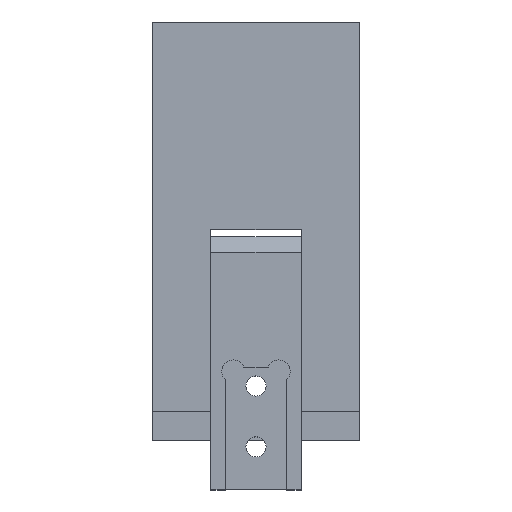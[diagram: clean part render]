
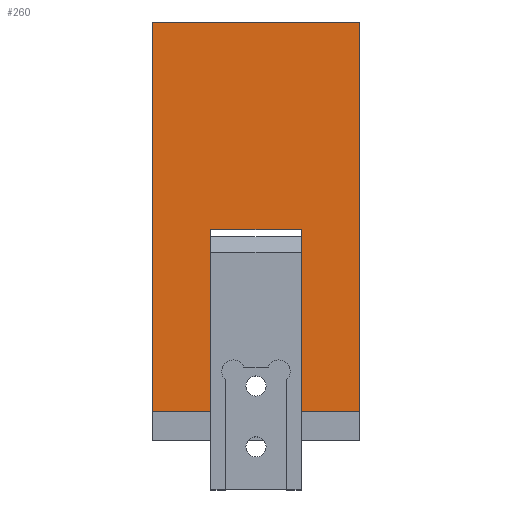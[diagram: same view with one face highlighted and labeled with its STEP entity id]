
A CAD part, top view. The second image highlights one B-rep face of the part: STEP entity #260.
In plain terms, the highlighted planar face has unit normal (0, 0, 1).
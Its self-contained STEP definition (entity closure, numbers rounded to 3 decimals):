
#172 = ORIENTED_EDGE ( 'NONE', *, *, #471, .F. ) ;
#260 = ADVANCED_FACE ( 'NONE', ( #3676 ), #5539, .F. ) ;
#373 = EDGE_CURVE ( 'NONE', #3381, #1973, #2630, .T. ) ;
#471 = EDGE_CURVE ( 'NONE', #3478, #1303, #3552, .T. ) ;
#563 = EDGE_CURVE ( 'NONE', #3946, #1760, #3898, .T. ) ;
#721 = DIRECTION ( 'NONE',  ( 0., 0., -1. ) ) ;
#741 = DIRECTION ( 'NONE',  ( -1., 0., 0. ) ) ;
#774 = CARTESIAN_POINT ( 'NONE',  ( -9.436, -40.64, 27.94 ) ) ;
#867 = CARTESIAN_POINT ( 'NONE',  ( -9.436, -40.64, 27.94 ) ) ;
#906 = EDGE_CURVE ( 'NONE', #3943, #3381, #990, .T. ) ;
#990 = LINE ( 'NONE', #3695, #5508 ) ;
#1094 = CARTESIAN_POINT ( 'NONE',  ( 21.59, -40.64, 27.94 ) ) ;
#1303 = VERTEX_POINT ( 'NONE', #5459 ) ;
#1325 = LINE ( 'NONE', #2492, #3682 ) ;
#1480 = VECTOR ( 'NONE', #4371, 1000. ) ;
#1513 = VECTOR ( 'NONE', #3715, 1000. ) ;
#1538 = VECTOR ( 'NONE', #5295, 1000. ) ;
#1698 = ORIENTED_EDGE ( 'NONE', *, *, #906, .F. ) ;
#1760 = VERTEX_POINT ( 'NONE', #1094 ) ;
#1828 = ORIENTED_EDGE ( 'NONE', *, *, #4137, .T. ) ;
#1871 = VERTEX_POINT ( 'NONE', #2474 ) ;
#1902 = EDGE_CURVE ( 'NONE', #3946, #3943, #1325, .T. ) ;
#1923 = DIRECTION ( 'NONE',  ( -1., 0., 0. ) ) ;
#1973 = VERTEX_POINT ( 'NONE', #774 ) ;
#1984 = DIRECTION ( 'NONE',  ( 0., -1., 0. ) ) ;
#2021 = DIRECTION ( 'NONE',  ( 0., -1., 0. ) ) ;
#2164 = ORIENTED_EDGE ( 'NONE', *, *, #3698, .F. ) ;
#2230 = CARTESIAN_POINT ( 'NONE',  ( 9.436, -40.64, 27.94 ) ) ;
#2235 = AXIS2_PLACEMENT_3D ( 'NONE', #4706, #721, #741 ) ;
#2474 = CARTESIAN_POINT ( 'NONE',  ( -21.59, -40.64, 27.94 ) ) ;
#2492 = CARTESIAN_POINT ( 'NONE',  ( 9.436, -40.64, 27.94 ) ) ;
#2630 = LINE ( 'NONE', #867, #1480 ) ;
#2661 = EDGE_CURVE ( 'NONE', #3478, #1871, #2822, .T. ) ;
#2758 = CARTESIAN_POINT ( 'NONE',  ( -21.59, 40.64, 27.94 ) ) ;
#2822 = LINE ( 'NONE', #5075, #4898 ) ;
#3265 = CARTESIAN_POINT ( 'NONE',  ( -21.59, -40.64, 27.94 ) ) ;
#3271 = VECTOR ( 'NONE', #5245, 1000. ) ;
#3381 = VERTEX_POINT ( 'NONE', #4911 ) ;
#3478 = VERTEX_POINT ( 'NONE', #2758 ) ;
#3552 = LINE ( 'NONE', #5644, #3271 ) ;
#3581 = CARTESIAN_POINT ( 'NONE',  ( -21.59, -40.64, 27.94 ) ) ;
#3592 = LINE ( 'NONE', #5112, #4761 ) ;
#3676 = FACE_OUTER_BOUND ( 'NONE', #5466, .T. ) ;
#3682 = VECTOR ( 'NONE', #5145, 1000. ) ;
#3695 = CARTESIAN_POINT ( 'NONE',  ( -9.436, -2.54, 27.94 ) ) ;
#3698 = EDGE_CURVE ( 'NONE', #1303, #1760, #3592, .T. ) ;
#3715 = DIRECTION ( 'NONE',  ( 1., 0., 0. ) ) ;
#3729 = LINE ( 'NONE', #3265, #1513 ) ;
#3731 = ORIENTED_EDGE ( 'NONE', *, *, #373, .F. ) ;
#3898 = LINE ( 'NONE', #3581, #1538 ) ;
#3943 = VERTEX_POINT ( 'NONE', #5322 ) ;
#3946 = VERTEX_POINT ( 'NONE', #2230 ) ;
#4129 = ORIENTED_EDGE ( 'NONE', *, *, #1902, .F. ) ;
#4137 = EDGE_CURVE ( 'NONE', #1871, #1973, #3729, .T. ) ;
#4371 = DIRECTION ( 'NONE',  ( 0., -1., 0. ) ) ;
#4706 = CARTESIAN_POINT ( 'NONE',  ( -21.59, 40.64, 27.94 ) ) ;
#4743 = ORIENTED_EDGE ( 'NONE', *, *, #2661, .T. ) ;
#4761 = VECTOR ( 'NONE', #2021, 1000. ) ;
#4898 = VECTOR ( 'NONE', #1984, 1000. ) ;
#4911 = CARTESIAN_POINT ( 'NONE',  ( -9.436, -2.54, 27.94 ) ) ;
#5075 = CARTESIAN_POINT ( 'NONE',  ( -21.59, 40.64, 27.94 ) ) ;
#5112 = CARTESIAN_POINT ( 'NONE',  ( 21.59, 40.64, 27.94 ) ) ;
#5145 = DIRECTION ( 'NONE',  ( 0., 1., 0. ) ) ;
#5245 = DIRECTION ( 'NONE',  ( 1., 0., 0. ) ) ;
#5295 = DIRECTION ( 'NONE',  ( 1., 0., 0. ) ) ;
#5322 = CARTESIAN_POINT ( 'NONE',  ( 9.436, -2.54, 27.94 ) ) ;
#5452 = ORIENTED_EDGE ( 'NONE', *, *, #563, .T. ) ;
#5459 = CARTESIAN_POINT ( 'NONE',  ( 21.59, 40.64, 27.94 ) ) ;
#5466 = EDGE_LOOP ( 'NONE', ( #1828, #3731, #1698, #4129, #5452, #2164, #172, #4743 ) ) ;
#5508 = VECTOR ( 'NONE', #1923, 1000. ) ;
#5539 = PLANE ( 'NONE',  #2235 ) ;
#5644 = CARTESIAN_POINT ( 'NONE',  ( -21.59, 40.64, 27.94 ) ) ;
